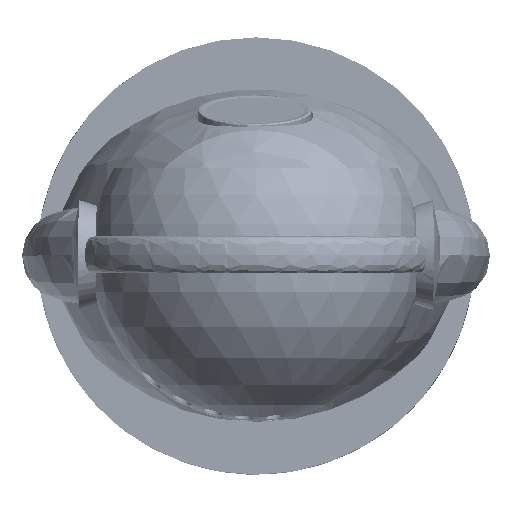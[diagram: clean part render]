
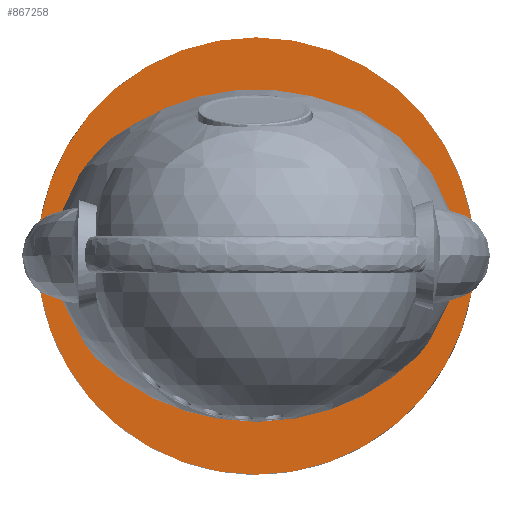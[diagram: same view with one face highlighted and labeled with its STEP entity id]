
A CAD part, top view. The second image highlights one B-rep face of the part: STEP entity #867258.
In plain terms, the highlighted planar face has unit normal (0, 0, 1).
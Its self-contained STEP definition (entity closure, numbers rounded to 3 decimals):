
#867155=CARTESIAN_POINT('',(0.,35.5,13.1));
#867156=VERTEX_POINT('',#867155);
#867197=CARTESIAN_POINT('',(0.,0.,13.1));
#867198=DIRECTION('',(0.,-0.,1.));
#867199=DIRECTION('',(0.,1.,0.));
#867200=AXIS2_PLACEMENT_3D('',#867197,#867198,#867199);
#867201=CIRCLE('',#867200,35.5);
#867202=EDGE_CURVE('',#867156,#867156,#867201,.T.);
#867239=CARTESIAN_POINT('',(0.,0.,13.1));
#867240=DIRECTION('',(0.,0.,1.));
#867241=DIRECTION('',(1.,-0.,0.));
#867242=AXIS2_PLACEMENT_3D('',#867239,#867240,#867241);
#867243=PLANE('',#867242);
#867244=CARTESIAN_POINT('',(0.,20.,13.1));
#867245=VERTEX_POINT('',#867244);
#867246=CARTESIAN_POINT('',(0.,0.,13.1));
#867247=DIRECTION('',(0.,-0.,1.));
#867248=DIRECTION('',(0.,1.,0.));
#867249=AXIS2_PLACEMENT_3D('',#867246,#867247,#867248);
#867250=CIRCLE('',#867249,20.);
#867251=EDGE_CURVE('',#867245,#867245,#867250,.T.);
#867252=ORIENTED_EDGE('',*,*,#867251,.F.);
#867253=EDGE_LOOP('',(#867252));
#867254=FACE_BOUND('',#867253,.T.);
#867255=ORIENTED_EDGE('',*,*,#867202,.T.);
#867256=EDGE_LOOP('',(#867255));
#867257=FACE_BOUND('',#867256,.T.);
#867258=ADVANCED_FACE('',(#867254,#867257),#867243,.T.);
